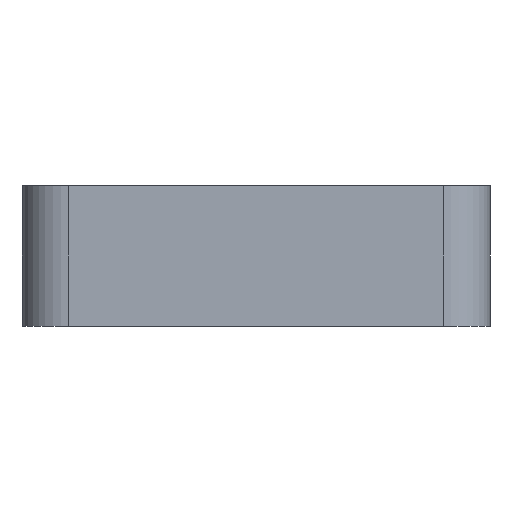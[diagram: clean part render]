
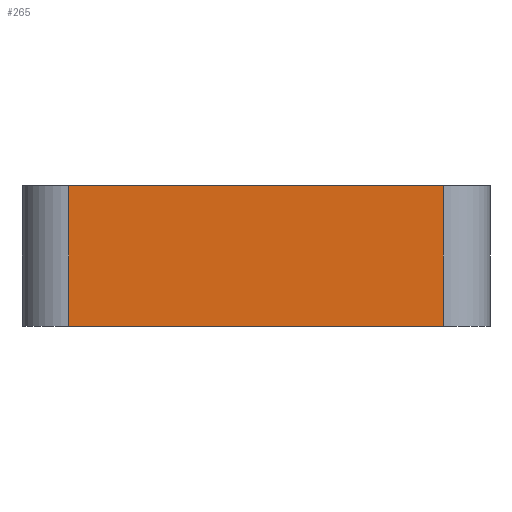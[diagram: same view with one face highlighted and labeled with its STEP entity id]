
A CAD part, left-side view. The second image highlights one B-rep face of the part: STEP entity #265.
In plain terms, the highlighted planar face has unit normal (-1, 0, 0).
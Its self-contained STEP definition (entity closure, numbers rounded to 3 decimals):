
#62 = LINE ( 'NONE', #297, #189 ) ;
#73 = CARTESIAN_POINT ( 'NONE',  ( -65., -8., 6. ) ) ;
#96 = CARTESIAN_POINT ( 'NONE',  ( -65., 8., 6. ) ) ;
#159 = DIRECTION ( 'NONE',  ( 1., 0., 0. ) ) ;
#166 = ORIENTED_EDGE ( 'NONE', *, *, #215, .T. ) ;
#168 = PLANE ( 'NONE',  #410 ) ;
#175 = VERTEX_POINT ( 'NONE', #315 ) ;
#178 = EDGE_CURVE ( 'NONE', #250, #175, #248, .T. ) ;
#188 = EDGE_LOOP ( 'NONE', ( #591, #715, #242, #166 ) ) ;
#189 = VECTOR ( 'NONE', #581, 1000. ) ;
#196 = VECTOR ( 'NONE', #665, 1000. ) ;
#208 = DIRECTION ( 'NONE',  ( 0., 1., 0. ) ) ;
#215 = EDGE_CURVE ( 'NONE', #589, #286, #377, .T. ) ;
#242 = ORIENTED_EDGE ( 'NONE', *, *, #541, .F. ) ;
#248 = LINE ( 'NONE', #667, #196 ) ;
#250 = VERTEX_POINT ( 'NONE', #372 ) ;
#265 = ADVANCED_FACE ( 'NONE', ( #559 ), #168, .F. ) ;
#269 = CARTESIAN_POINT ( 'NONE',  ( -65., 8., 0. ) ) ;
#286 = VERTEX_POINT ( 'NONE', #269 ) ;
#297 = CARTESIAN_POINT ( 'NONE',  ( -65., -8., 0. ) ) ;
#315 = CARTESIAN_POINT ( 'NONE',  ( -65., -8., 0. ) ) ;
#352 = DIRECTION ( 'NONE',  ( 0., -1., 0. ) ) ;
#369 = LINE ( 'NONE', #73, #508 ) ;
#372 = CARTESIAN_POINT ( 'NONE',  ( -65., -8., 6. ) ) ;
#377 = LINE ( 'NONE', #96, #641 ) ;
#410 = AXIS2_PLACEMENT_3D ( 'NONE', #733, #159, #208 ) ;
#483 = CARTESIAN_POINT ( 'NONE',  ( -65., 8., 6. ) ) ;
#492 = EDGE_CURVE ( 'NONE', #286, #175, #62, .T. ) ;
#508 = VECTOR ( 'NONE', #352, 1000. ) ;
#541 = EDGE_CURVE ( 'NONE', #589, #250, #369, .T. ) ;
#559 = FACE_OUTER_BOUND ( 'NONE', #188, .T. ) ;
#566 = DIRECTION ( 'NONE',  ( 0., 0., -1. ) ) ;
#581 = DIRECTION ( 'NONE',  ( 0., -1., 0. ) ) ;
#589 = VERTEX_POINT ( 'NONE', #483 ) ;
#591 = ORIENTED_EDGE ( 'NONE', *, *, #492, .T. ) ;
#641 = VECTOR ( 'NONE', #566, 1000. ) ;
#665 = DIRECTION ( 'NONE',  ( 0., 0., -1. ) ) ;
#667 = CARTESIAN_POINT ( 'NONE',  ( -65., -8., 6. ) ) ;
#715 = ORIENTED_EDGE ( 'NONE', *, *, #178, .F. ) ;
#733 = CARTESIAN_POINT ( 'NONE',  ( -65., -8., 6. ) ) ;
